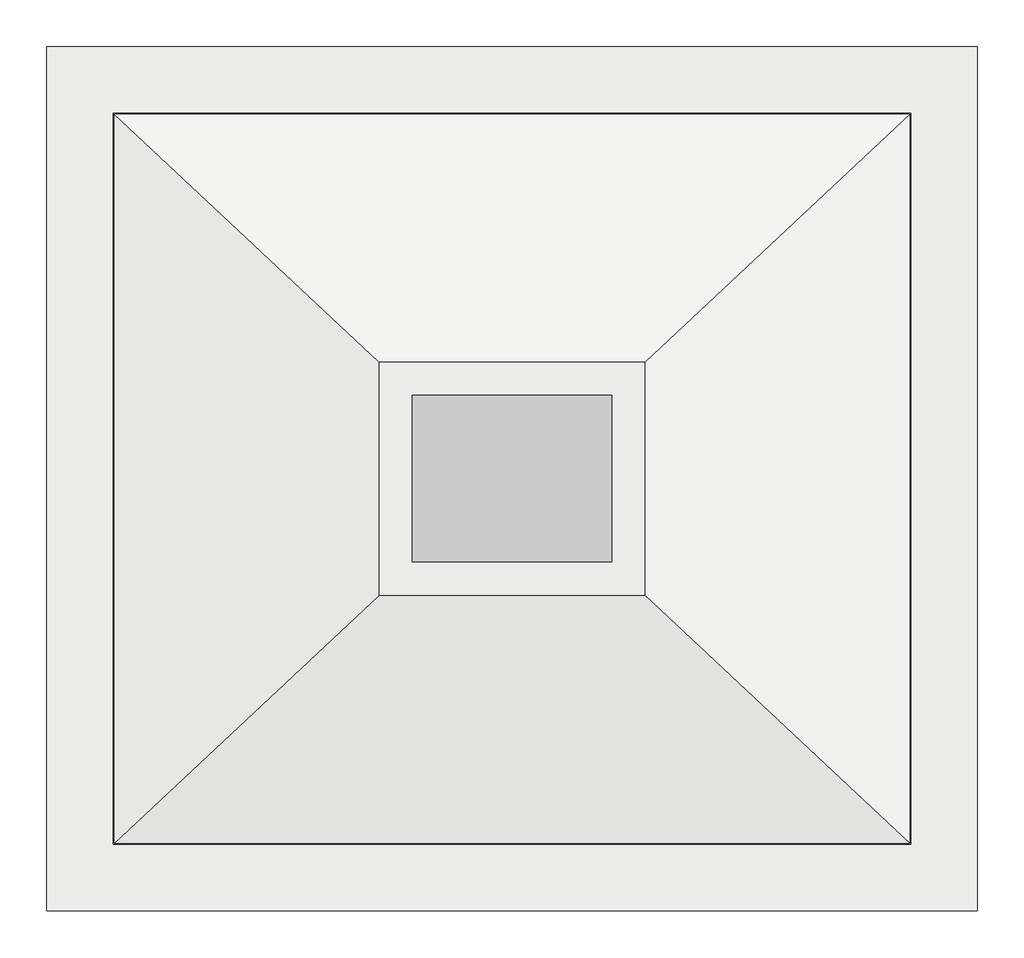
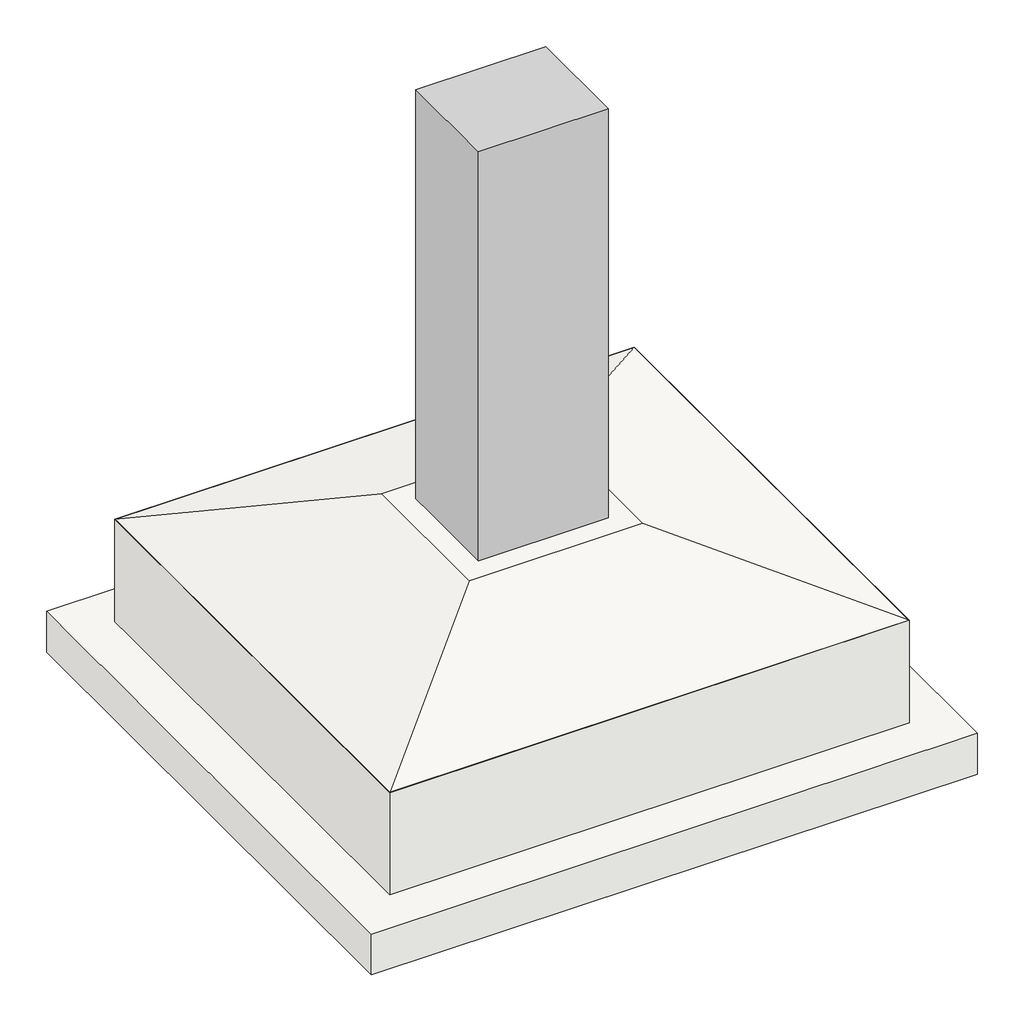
# One storey: 2 slabs, 1 column.
"""IFC4 building model written with IfcOpenShell, lengths in millimetres."""

from ifc_helpers import new_model, si_unit, frame, origin, place, context, project, spatial, polyline, outline, extrude, faceted_brep, transform, mapped, element, save
from components import column_300_x_250mm_c71c2dc7

model = new_model("IFC4")

# Units and contexts
model_context = context("Model", 3, world=origin())
ifc_project = project(units=[si_unit("LENGTHUNIT", "METRE", prefix="MILLI")], contexts=[model_context])

# Site, building, storey
site = spatial("IfcSite", under=ifc_project)
building = spatial("IfcBuilding", under=site)
storey = spatial("IfcBuildingStorey", under=building, Name="标高 2", Elevation=3000.0)

# Column
placement = place(None, origin())
column_300_x_250mm_shape = column_300_x_250mm_c71c2dc7(model_context)
element("IfcColumn", 1, ObjectType="混凝土 - 矩形 - 柱 : 300 x 250mm", at=placement, inside=storey, context=model_context, shape_type="MappedRepresentation", body=[
    mapped(column_300_x_250mm_shape, transform((-1631.2259735, 2195.9143248, 0.0), x_axis=(1.0, 0.0, 0.0), y_axis=(0.0, 1.0, 0.0), z_axis=(0.0, 0.0, 1.0))),
])

# Slabs
element("IfcSlab", 2, ObjectType="独立基础 - 坡形截面 : 独立基础 - 坡形截面", at=placement, inside=storey, context=model_context, shape_type="SolidModel", body=[
    extrude(outline(polyline([(-1031.2259735, 2745.9143248), (-1031.2259735, 1645.9143248), (-2231.2259735, 1645.9143248), (-2231.2259735, 2745.9143248), (-1031.2259735, 2745.9143248)])), frame((0.0, 0.0, 2600.0), z_axis=(0.0, 0.0, 1.0), x_axis=(1.0, 0.0, 0.0)), (0.0, 0.0, 1.0), 250.0),
    faceted_brep([(-1031.2259735, 2745.9143248, 2850.0), (-1031.2259735, 1645.9143248, 2850.0), (-2231.2259735, 1645.9143248, 2850.0), (-2231.2259735, 2745.9143248, 2850.0), (-1431.2259735, 2370.9143248, 3000.0), (-1831.2259735, 2370.9143248, 3000.0), (-1831.2259735, 2020.9143248, 3000.0), (-1431.2259735, 2020.9143248, 3000.0)], [[[0, 1, 2, 3]], [[4, 5, 6, 7]], [[5, 4, 0, 3]], [[6, 5, 3, 2]], [[7, 6, 2, 1]], [[4, 7, 1, 0]]]),
])
element("IfcSlab", 3, ObjectType="100mm 基础底板", at=placement, inside=storey, context=model_context, shape_type="SweptSolid", body=[
    extrude(outline(polyline([(-931.2259735, 2845.9143248), (-931.2259735, 1545.9143248), (-2331.2259735, 1545.9143248), (-2331.2259735, 2845.9143248), (-931.2259735, 2845.9143248)])), frame((0.0, 0.0, 2500.0), z_axis=(0.0, 0.0, 1.0), x_axis=(1.0, 0.0, 0.0)), (0.0, 0.0, 1.0), 100.0),
])

save(model, "model.ifc")
